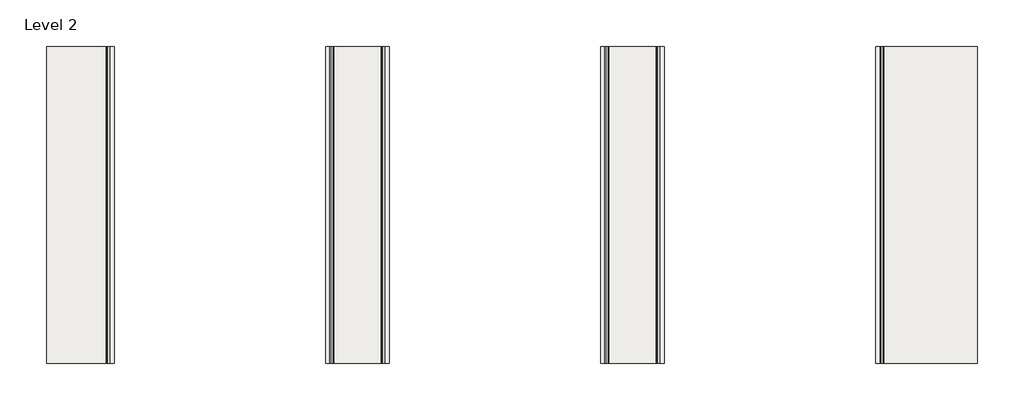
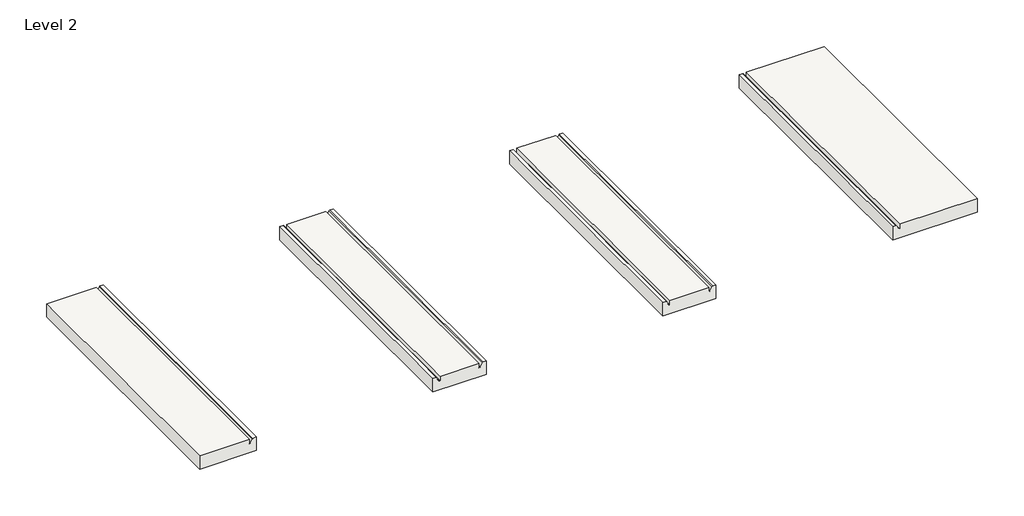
# One storey, incomplete: 1 roof.
"""IFC4 building model written with IfcOpenShell, lengths in millimetres."""

from ifc_helpers import new_model, si_unit, point, frame, frame_2d, origin, place, context, project, spatial, polyline, circle_curve, trimmed, segment, composite_curve, outline, extrude, element, save

model = new_model("IFC4")

# Units and contexts
model_context = context("Model", 3, world=origin())
ifc_project = project(units=[si_unit("LENGTHUNIT", "METRE", prefix="MILLI")], contexts=[model_context])

# Site, building, storey
site = spatial("IfcSite", under=ifc_project)
building = spatial("IfcBuilding", under=site)
storey = spatial("IfcBuildingStorey", under=building, Name="Level 2", Elevation=4000.0)

# Roof
placement = place(None, origin())
element("IfcRoof", 1, ObjectType="Teja Modelo", at=placement, inside=storey, context=model_context, shape_type="SweptSolid", body=[
    extrude(outline(composite_curve([segment(polyline([(4080.0, -1980.2817263), (4000.0, -1980.2817263), (4000.0, -1659.2885865), (4080.0, -1659.2885865), (4080.0, -1678.4847101)]), True, "CONTINUOUS"), segment(trimmed(circle_curve(frame_2d((4065.3740604, -1664.8435264)), 20.0), [point((4080.0, -1678.4847101))], [point((4075.1657186, -1682.2826615))], False, "CARTESIAN"), True, "CONTINUOUS"), segment(polyline([(4075.1657186, -1682.2826615), (4056.3316603, -1692.8575357)]), True, "CONTINUOUS"), segment(trimmed(circle_curve(frame_2d((4057.969802, -1696.5067125)), 4.0), [point((4056.3316603, -1692.8575357))], [point((4053.969802, -1696.5067125))], True, "CARTESIAN"), True, "CONTINUOUS"), segment(polyline([(4053.969802, -1696.5067125), (4053.969802, -1699.9486239), (4080.0, -1699.9486239), (4080.0, -1980.2817263)]), True, "CONTINUOUS")], self_intersect=False)), frame((0.0, -5505.0804713, 0.0), z_axis=(0.0, 1.0, 0.0), x_axis=(0.0, 0.0, 1.0)), (0.0, 0.0, 1.0), 1500.0),
    extrude(outline(composite_curve([segment(polyline([(4000.0, 2419.7182737), (4080.0, 2419.7182737), (4080.0, 1979.2651241), (4053.969802, 1979.2651241), (4053.969802, 1976.3901241)]), True, "CONTINUOUS"), segment(trimmed(circle_curve(frame_2d((4057.969802, 1976.3901241)), 4.0), [point((4053.969802, 1976.3901241))], [point((4056.3316603, 1972.7409473))], True, "CARTESIAN"), True, "CONTINUOUS"), segment(polyline([(4056.3316603, 1972.7409473), (4075.1657186, 1962.1660731)]), True, "CONTINUOUS"), segment(trimmed(circle_curve(frame_2d((4065.3740604, 1944.726938)), 20.0), [point((4075.1657186, 1962.1660731))], [point((4080.0, 1958.3681217))], False, "CARTESIAN"), True, "CONTINUOUS"), segment(polyline([(4080.0, 1958.3681217), (4080.0, 1939.1719981), (4000.0, 1939.1719981), (4000.0, 2419.7182737)]), True, "CONTINUOUS")], self_intersect=False)), frame((0.0, -5505.0804713, 0.0), z_axis=(0.0, 1.0, 0.0), x_axis=(0.0, 0.0, 1.0)), (0.0, 0.0, 1.0), 1500.0),
    extrude(outline(composite_curve([segment(polyline([(4080.0, -641.0456263), (4080.0, -660.2417499), (4000.0, -660.2417499), (4000.0, -359.5817125), (4080.0, -359.5817125), (4080.0, -378.7778361)]), True, "CONTINUOUS"), segment(trimmed(circle_curve(frame_2d((4065.3740604, -365.1366524)), 20.0), [point((4080.0, -378.7778361))], [point((4075.1657186, -382.5757874))], False, "CARTESIAN"), True, "CONTINUOUS"), segment(polyline([(4075.1657186, -382.5757874), (4056.3316603, -393.1506617)]), True, "CONTINUOUS"), segment(trimmed(circle_curve(frame_2d((4057.969802, -396.7998385)), 4.0), [point((4056.3316603, -393.1506617))], [point((4053.969802, -396.7998385))], True, "CARTESIAN"), True, "CONTINUOUS"), segment(polyline([(4053.969802, -396.7998385), (4053.969802, -400.2417499), (4080.0, -400.2417499), (4080.0, -620.1486239), (4053.969802, -620.1486239), (4053.969802, -623.0236239)]), True, "CONTINUOUS"), segment(trimmed(circle_curve(frame_2d((4057.969802, -623.0236239)), 4.0), [point((4053.969802, -623.0236239))], [point((4056.3316603, -626.6728008))], True, "CARTESIAN"), True, "CONTINUOUS"), segment(polyline([(4056.3316603, -626.6728008), (4075.1657186, -637.247675)]), True, "CONTINUOUS"), segment(trimmed(circle_curve(frame_2d((4065.3740604, -654.68681)), 20.0), [point((4075.1657186, -637.247675))], [point((4080.0, -641.0456263))], False, "CARTESIAN"), True, "CONTINUOUS")], self_intersect=False)), frame((0.0, -5505.0804713, 0.0), z_axis=(0.0, 1.0, 0.0), x_axis=(0.0, 0.0, 1.0)), (0.0, 0.0, 1.0), 1500.0),
    extrude(outline(composite_curve([segment(polyline([(4080.0, 658.6612477), (4080.0, 639.4651241), (4000.0, 639.4651241), (4000.0, 940.1251615), (4080.0, 940.1251615), (4080.0, 920.9290379)]), True, "CONTINUOUS"), segment(trimmed(circle_curve(frame_2d((4065.3740604, 934.5702216)), 20.0), [point((4080.0, 920.9290379))], [point((4075.1657186, 917.1310866))], False, "CARTESIAN"), True, "CONTINUOUS"), segment(polyline([(4075.1657186, 917.1310866), (4056.3316603, 906.5562124)]), True, "CONTINUOUS"), segment(trimmed(circle_curve(frame_2d((4057.969802, 902.9070355)), 4.0), [point((4056.3316603, 906.5562124))], [point((4053.969802, 902.9070355))], True, "CARTESIAN"), True, "CONTINUOUS"), segment(polyline([(4053.969802, 902.9070355), (4053.969802, 899.4651241), (4080.0, 899.4651241), (4080.0, 679.5582501), (4053.969802, 679.5582501), (4053.969802, 676.6832501)]), True, "CONTINUOUS"), segment(trimmed(circle_curve(frame_2d((4057.969802, 676.6832501)), 4.0), [point((4053.969802, 676.6832501))], [point((4056.3316603, 673.0340733))], True, "CARTESIAN"), True, "CONTINUOUS"), segment(polyline([(4056.3316603, 673.0340733), (4075.1657186, 662.459199)]), True, "CONTINUOUS"), segment(trimmed(circle_curve(frame_2d((4065.3740604, 645.020064)), 20.0), [point((4075.1657186, 662.459199))], [point((4080.0, 658.6612477))], False, "CARTESIAN"), True, "CONTINUOUS")], self_intersect=False)), frame((0.0, -5505.0804713, 0.0), z_axis=(0.0, 1.0, 0.0), x_axis=(0.0, 0.0, 1.0)), (0.0, 0.0, 1.0), 1500.0),
])

save(model, "model.ifc")
